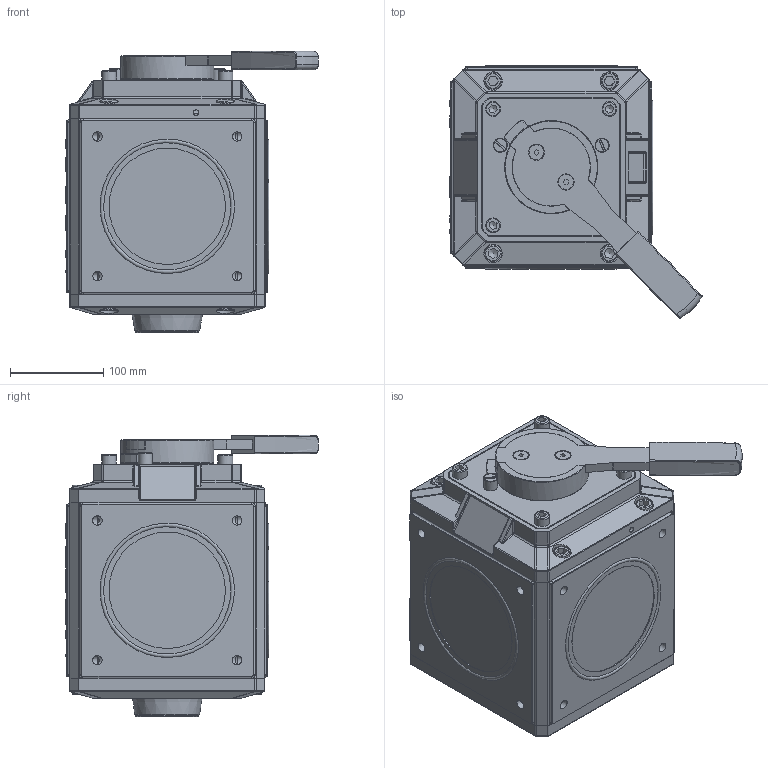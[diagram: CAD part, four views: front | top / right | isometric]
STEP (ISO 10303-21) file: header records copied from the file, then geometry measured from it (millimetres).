
FILE_DESCRIPTION(/* description */ (''),/* implementation_level */ '2;1');
FILE_NAME(/* name */ 'E:\WorkSpace\Designs\1700\1700062.stp',/* time_stamp */ '2022-05-25T10:57:26+02:00',/* author */ ('JJ'),/* organization */ (''),/* preprocessor_version */ 'ST-DEVELOPER v18.1',/* originating_system */ 'Autodesk Inventor 2022',/* authorisation */ '');
FILE_SCHEMA (('AUTOMOTIVE_DESIGN { 1 0 10303 214 3 1 1 }'));
Length unit declared in the file: millimetre
Products named in the file (1): 1700062
Bounding box: 271.42 x 271.53 x 302.3 mm (x, y, z)
Volume: 10570050.9 mm3; surface area: 441011.3 mm2
Topology: 1 solids, 1 shells, 911 faces, 2176 edges, 1295 vertices
Faces by surface type: plane 320, cylinder 300, bspline 150, torus 89, cone 36, sphere 16
Full cylindrical faces by diameter (mm): 6 x1, 6.647 x1, 8 x2, 8.5 x2, 10.106 x16, 15 x2, 16 x6, 18 x8, 20 x8, 68 x1, 74 x1, 100 x1, 125 x4
Entity records: 31469 total; most frequent: CARTESIAN_POINT 10076, ORIENTED_EDGE 4292, DIRECTION 4230, EDGE_CURVE 2146, AXIS2_PLACEMENT_3D 1632, VERTEX_POINT 1295, EDGE_LOOP 989, LINE 966
